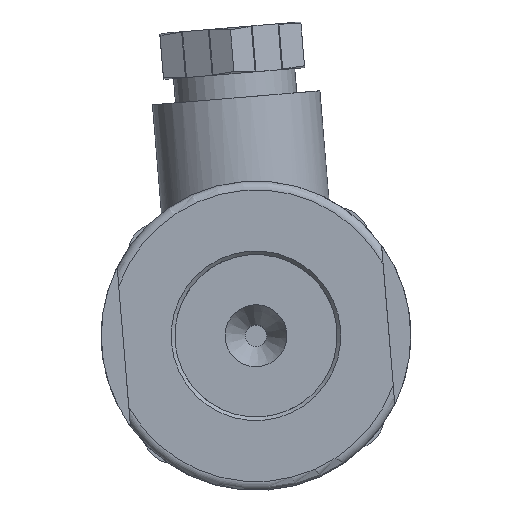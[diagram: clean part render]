
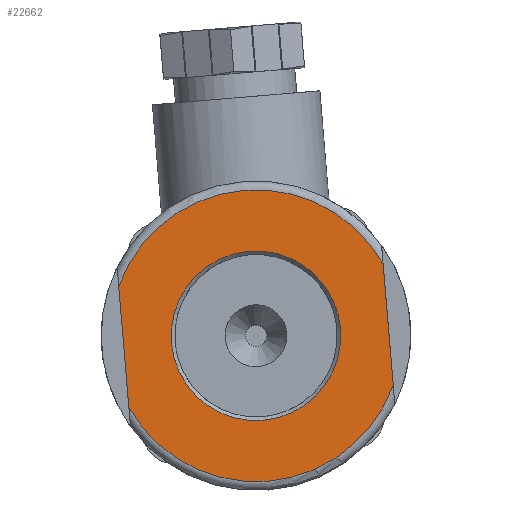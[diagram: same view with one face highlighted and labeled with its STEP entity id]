
A CAD part, left-side view. The second image highlights one B-rep face of the part: STEP entity #22662.
In plain terms, the highlighted planar face has unit normal (-1, 0, 0).
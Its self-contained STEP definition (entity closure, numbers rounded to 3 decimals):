
#344=LINE('',#31142,#2674);
#348=LINE('',#31179,#2678);
#2674=VECTOR('',#25712,10.);
#2678=VECTOR('',#25722,10.);
#6497=PLANE('',#24164);
#7504=FACE_BOUND('',#8995,.T.);
#7719=FACE_OUTER_BOUND('',#8994,.T.);
#8994=EDGE_LOOP('',(#16279,#16280,#16281,#16282));
#8995=EDGE_LOOP('',(#16283));
#10402=CIRCLE('',#24157,16.5);
#10406=CIRCLE('',#24163,9.594);
#10407=CIRCLE('',#24165,16.5);
#10815=VERTEX_POINT('',#31127);
#10817=VERTEX_POINT('',#31141);
#10821=VERTEX_POINT('',#31164);
#10823=VERTEX_POINT('',#31178);
#10828=VERTEX_POINT('',#31208);
#13000=EDGE_CURVE('',#10817,#10815,#344,.T.);
#13007=EDGE_CURVE('',#10823,#10821,#348,.T.);
#13013=EDGE_CURVE('',#10817,#10821,#10402,.T.);
#13017=EDGE_CURVE('',#10828,#10828,#10406,.T.);
#13018=EDGE_CURVE('',#10823,#10815,#10407,.T.);
#16279=ORIENTED_EDGE('',*,*,#13000,.T.);
#16280=ORIENTED_EDGE('',*,*,#13018,.F.);
#16281=ORIENTED_EDGE('',*,*,#13007,.T.);
#16282=ORIENTED_EDGE('',*,*,#13013,.F.);
#16283=ORIENTED_EDGE('',*,*,#13017,.F.);
#22662=ADVANCED_FACE('',(#7719,#7504),#6497,.T.);
#24157=AXIS2_PLACEMENT_3D('',#31201,#25732,#25733);
#24163=AXIS2_PLACEMENT_3D('',#31209,#25744,#25745);
#24164=AXIS2_PLACEMENT_3D('',#31210,#25746,#25747);
#24165=AXIS2_PLACEMENT_3D('',#31211,#25748,#25749);
#25712=DIRECTION('',(0.,1.,0.));
#25722=DIRECTION('',(0.,-1.,0.));
#25732=DIRECTION('center_axis',(1.,0.,0.));
#25733=DIRECTION('ref_axis',(0.,-1.,0.));
#25744=DIRECTION('center_axis',(-1.,0.,0.));
#25745=DIRECTION('ref_axis',(0.,-1.,0.));
#25746=DIRECTION('center_axis',(-1.,0.,0.));
#25747=DIRECTION('ref_axis',(0.,0.,1.));
#25748=DIRECTION('center_axis',(1.,0.,0.));
#25749=DIRECTION('ref_axis',(0.,-1.,0.));
#31127=CARTESIAN_POINT('',(-7.569,6.874,15.));
#31141=CARTESIAN_POINT('',(-7.569,-6.874,15.));
#31142=CARTESIAN_POINT('',(-7.569,11.179,15.));
#31164=CARTESIAN_POINT('',(-7.569,-6.874,-15.));
#31178=CARTESIAN_POINT('',(-7.569,6.874,-15.));
#31179=CARTESIAN_POINT('',(-7.569,2.165,-15.));
#31201=CARTESIAN_POINT('Origin',(-7.569,0.,0.));
#31208=CARTESIAN_POINT('',(-7.569,9.594,0.));
#31209=CARTESIAN_POINT('Origin',(-7.569,0.,0.));
#31210=CARTESIAN_POINT('Origin',(-7.569,13.344,0.));
#31211=CARTESIAN_POINT('Origin',(-7.569,0.,0.));
